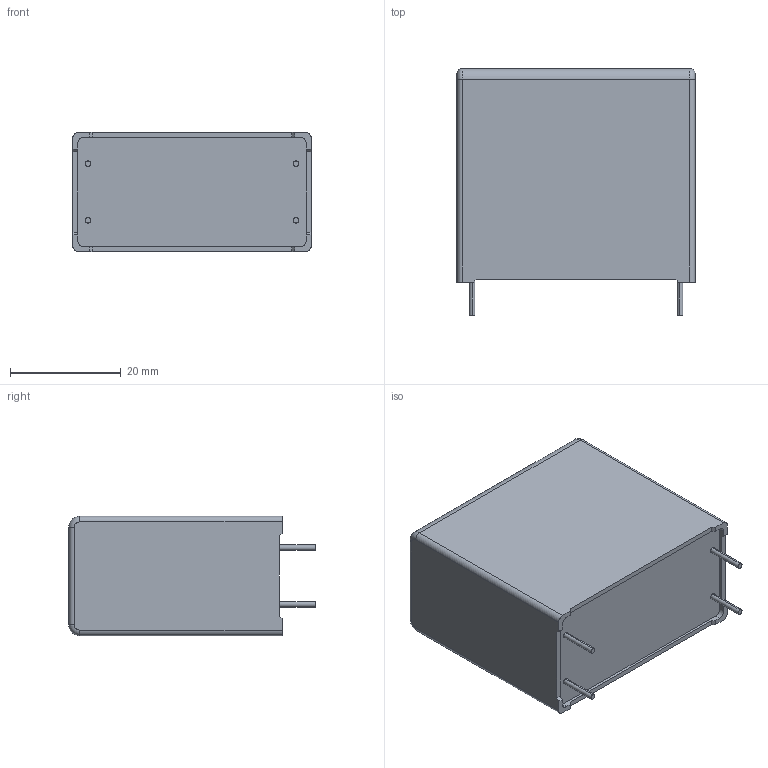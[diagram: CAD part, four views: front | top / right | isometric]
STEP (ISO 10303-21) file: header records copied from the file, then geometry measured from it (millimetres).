
FILE_DESCRIPTION (( 'STEP AP203' ), '1' );
FILE_NAME ('DC_Link_21.5x38.5x43_4pins10.2.step', '2017-04-03T15:59:50', ( 'work' ), ( 'Hewlett-Packard Company' ), 'SwSTEP 2.0', 'SolidWorks 2017', '' );
FILE_SCHEMA (( 'CONFIG_CONTROL_DESIGN' ));
Length unit declared in the file: millimetre
Products named in the file (1): DC_Link_21.5x38.5x43_4pins10.2
Bounding box: 43 x 44.5 x 21.5 mm (x, y, z)
Volume: 34643.2 mm3; surface area: 6760.3 mm2
Topology: 1 solids, 1 shells, 122 faces, 319 edges, 210 vertices
Faces by surface type: plane 82, cylinder 20, bspline 16, torus 4
Entity records: 4492 total; most frequent: CARTESIAN_POINT 1476, ORIENTED_EDGE 638, DIRECTION 545, EDGE_CURVE 319, LINE 243, VECTOR 243, VERTEX_POINT 210, AXIS2_PLACEMENT_3D 151
